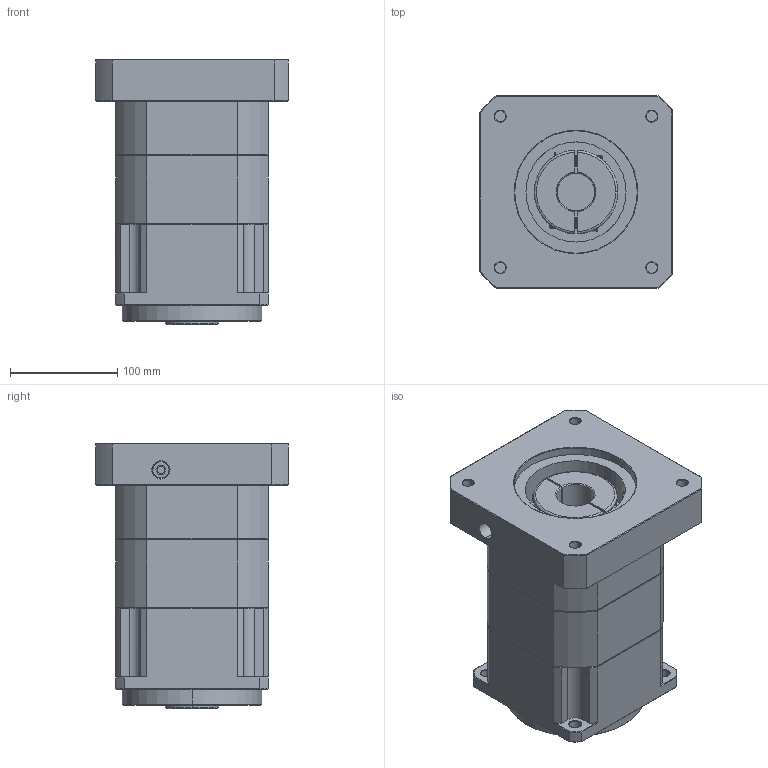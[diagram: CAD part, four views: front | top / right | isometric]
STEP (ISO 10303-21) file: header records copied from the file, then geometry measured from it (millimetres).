
FILE_DESCRIPTION (( 'STEP AP214' ), '1' );
FILE_NAME ('ZPB142-K35-L2-P1-35-114.3-200-M12.step', '2024-07-05T00:12:00', ( 'Windows 蚚誧' ), ( 'Organization' ), 'SwSTEP 2.0', 'SolidWorks 2016', '' );
FILE_SCHEMA (( 'AUTOMOTIVE_DESIGN' ));
Length unit declared in the file: millimetre
Products named in the file (1): ZPB142-K35-L2-P1-35-114.3-200-M12
Bounding box: 180 x 180 x 247.5 mm (x, y, z)
Surface area: 253566.9 mm2 (no closed solid volume)
Topology: 0 solids, 36 shells, 1773 faces, 4715 edges, 3018 vertices
Faces by surface type: plane 918, bspline 376, cone 265, cylinder 214
Entity records: 87218 total; most frequent: CARTESIAN_POINT 37755, ORIENTED_EDGE 9426, DIRECTION 7261, EDGE_CURVE 4715, LINE 3141, VECTOR 3141, VERTEX_POINT 3018, AXIS2_PLACEMENT_3D 2060
